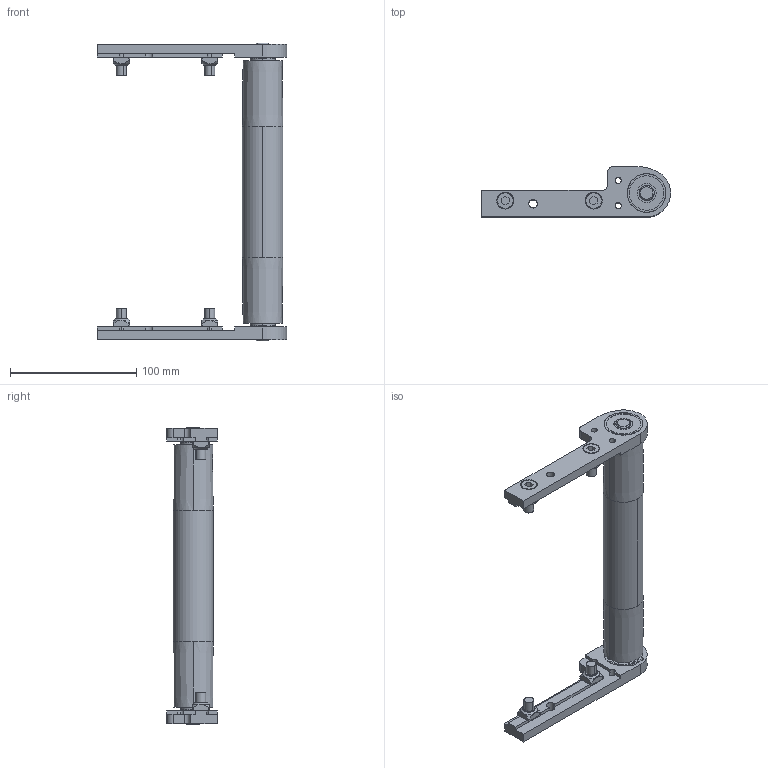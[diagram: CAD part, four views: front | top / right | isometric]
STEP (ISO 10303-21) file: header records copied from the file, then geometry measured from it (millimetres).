
FILE_DESCRIPTION (( 'STEP AP203' ), '1' );
FILE_NAME ('084.030.KIF.STEP', '2019-07-29T09:42:30', ( '' ), ( '' ), 'SwSTEP 2.0', 'SolidWorks 2018', '' );
FILE_SCHEMA (( 'CONFIG_CONTROL_DESIGN' ));
Length unit declared in the file: millimetre
Products named in the file (7): 084.801.027 sx; 62012RSBOMB_62012RSBOMB; 084.801.027 dx; 084.801.062; 084.302.000 DADI ALUSIC 13x13-1_084.302.004; 084.030.KIF; 084.301.000 VITI ALUSIC_084.301.003
Assembly tree (13 placements, depth 2):
  084.030.KIF
    084.801.062
    084.801.027 dx
    084.801.027 sx
    084.301.000 VITI ALUSIC_084.301.003  x4
    084.302.000 DADI ALUSIC 13x13-1_084.302.004  x4
    62012RSBOMB_62012RSBOMB  x2
Bounding box: 150 x 40 x 236 mm (x, y, z)
Volume: 239058.7 mm3; surface area: 58616.6 mm2
Topology: 13 solids, 13 shells, 356 faces, 936 edges, 614 vertices
Faces by surface type: plane 148, cylinder 128, torus 32, cone 24, bspline 16, sphere 8
Entity records: 8115 total; most frequent: CARTESIAN_POINT 1610, DIRECTION 1240, ORIENTED_EDGE 1144, EDGE_CURVE 572, AXIS2_PLACEMENT_3D 482, VERTEX_POINT 378, VECTOR 276, LINE 276
